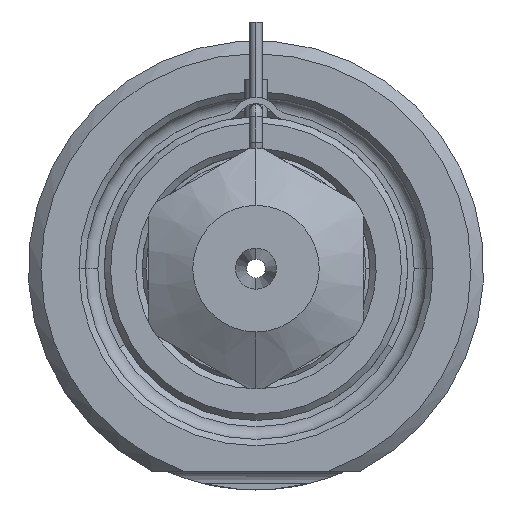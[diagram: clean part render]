
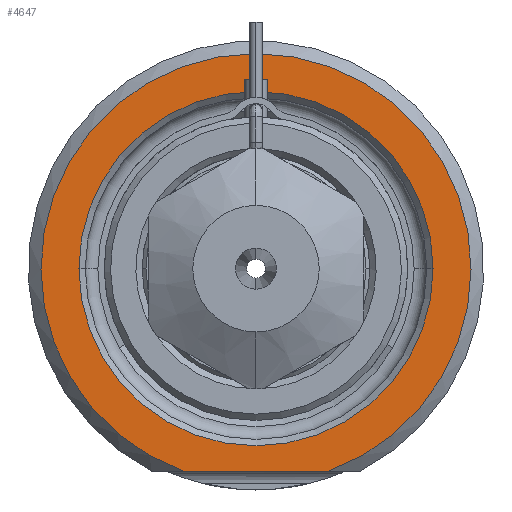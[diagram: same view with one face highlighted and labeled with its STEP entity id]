
A CAD part, front view. The second image highlights one B-rep face of the part: STEP entity #4647.
In plain terms, the highlighted planar face has unit normal (0, -1, 0).
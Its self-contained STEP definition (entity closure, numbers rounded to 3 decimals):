
#1381=DIRECTION('',(1.,0.,0.));
#1382=VECTOR('',#1381,11.489);
#1383=CARTESIAN_POINT('',(-5.745,0.,-16.));
#1384=LINE('',#1383,#1382);
#1385=CARTESIAN_POINT('',(0.,0.,0.));
#1386=DIRECTION('',(0.,1.,0.));
#1387=DIRECTION('',(-1.,0.,0.));
#1388=AXIS2_PLACEMENT_3D('',#1385,#1386,#1387);
#1390=CARTESIAN_POINT('',(0.,0.,0.));
#1391=DIRECTION('',(0.,1.,0.));
#1392=DIRECTION('',(1.,0.,0.));
#1393=AXIS2_PLACEMENT_3D('',#1390,#1391,#1392);
#1497=CARTESIAN_POINT('',(0.,0.,0.));
#1498=DIRECTION('',(0.,-1.,0.));
#1499=DIRECTION('',(0.338,0.,-0.941));
#1500=AXIS2_PLACEMENT_3D('',#1497,#1498,#1499);
#2545=CARTESIAN_POINT('',(-14.,0.,0.));
#2546=CARTESIAN_POINT('',(14.,0.,0.));
#2547=VERTEX_POINT('',#2545);
#2548=VERTEX_POINT('',#2546);
#2595=CARTESIAN_POINT('',(-5.745,0.,-16.));
#2596=CARTESIAN_POINT('',(5.745,0.,-16.));
#2597=VERTEX_POINT('',#2595);
#2598=VERTEX_POINT('',#2596);
#4631=CARTESIAN_POINT('',(0.,0.,0.));
#4632=DIRECTION('',(0.,-1.,0.));
#4633=DIRECTION('',(1.,0.,0.));
#4634=AXIS2_PLACEMENT_3D('',#4631,#4632,#4633);
#4635=PLANE('',#4634);
#4637=ORIENTED_EDGE('',*,*,#4636,.F.);
#4639=ORIENTED_EDGE('',*,*,#4638,.F.);
#4640=EDGE_LOOP('',(#4637,#4639));
#4641=FACE_OUTER_BOUND('',#4640,.F.);
#4643=ORIENTED_EDGE('',*,*,#4642,.F.);
#4644=ORIENTED_EDGE('',*,*,#4621,.F.);
#4645=EDGE_LOOP('',(#4643,#4644));
#4646=FACE_BOUND('',#4645,.F.);
#4647=ADVANCED_FACE('',(#4641,#4646),#4635,.T.);
#1389=CIRCLE('',#1388,14.);
#1394=CIRCLE('',#1393,14.);
#1501=CIRCLE('',#1500,17.);
#4621=EDGE_CURVE('',#2548,#2547,#1394,.T.);
#4636=EDGE_CURVE('',#2597,#2598,#1384,.T.);
#4638=EDGE_CURVE('',#2598,#2597,#1501,.T.);
#4642=EDGE_CURVE('',#2547,#2548,#1389,.T.);
